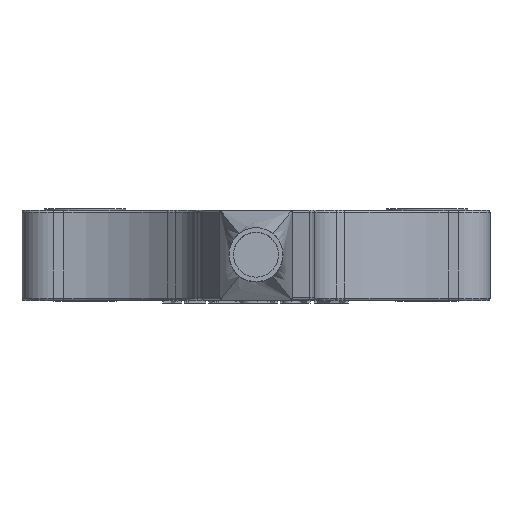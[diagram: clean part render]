
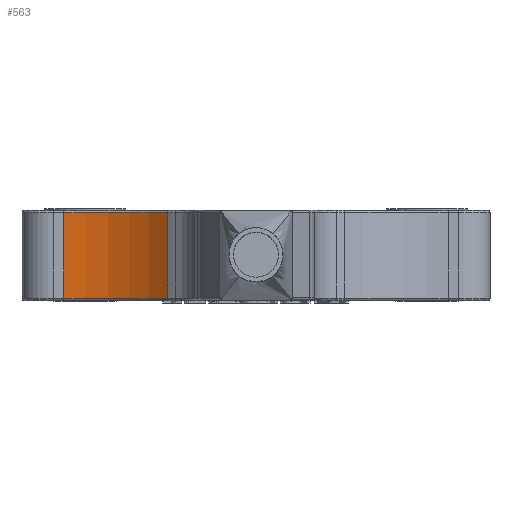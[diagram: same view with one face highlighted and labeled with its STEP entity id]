
A CAD part, top view. The second image highlights one B-rep face of the part: STEP entity #563.
In plain terms, the highlighted cylindrical face has radius 17.5 mm (diameter 35 mm), a partial arc.
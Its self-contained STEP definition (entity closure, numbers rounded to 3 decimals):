
#2 = DIRECTION ( 'NONE',  ( 0., 1., 0. ) ) ;
#251 = VERTEX_POINT ( 'NONE', #6872 ) ;
#563 = ADVANCED_FACE ( 'NONE', ( #3836 ), #11026, .F. ) ;
#1147 = VECTOR ( 'NONE', #6979, 1000. ) ;
#1235 = CARTESIAN_POINT ( 'NONE',  ( -26.059, 11.542, 10.322 ) ) ;
#2359 = LINE ( 'NONE', #11454, #1147 ) ;
#2696 = DIRECTION ( 'NONE',  ( 0., 0., -1. ) ) ;
#2743 = EDGE_CURVE ( 'NONE', #251, #9292, #3497, .T. ) ;
#3471 = AXIS2_PLACEMENT_3D ( 'NONE', #3596, #9339, #2696 ) ;
#3497 = LINE ( 'NONE', #6325, #4473 ) ;
#3596 = CARTESIAN_POINT ( 'NONE',  ( -26.059, 11.792, 10.322 ) ) ;
#3698 = CARTESIAN_POINT ( 'NONE',  ( -14.561, 11.542, -2.871 ) ) ;
#3815 = ORIENTED_EDGE ( 'NONE', *, *, #6968, .T. ) ;
#3836 = FACE_OUTER_BOUND ( 'NONE', #10234, .T. ) ;
#4473 = VECTOR ( 'NONE', #2, 1000. ) ;
#4584 = ORIENTED_EDGE ( 'NONE', *, *, #2743, .F. ) ;
#4717 = VERTEX_POINT ( 'NONE', #9914 ) ;
#4920 = AXIS2_PLACEMENT_3D ( 'NONE', #5977, #9403, #7635 ) ;
#5319 = CIRCLE ( 'NONE', #4920, 17.5 ) ;
#5755 = DIRECTION ( 'NONE',  ( 0., 1., 0. ) ) ;
#5977 = CARTESIAN_POINT ( 'NONE',  ( -26.059, 2.042, 10.322 ) ) ;
#6325 = CARTESIAN_POINT ( 'NONE',  ( -26.059, 11.792, -7.178 ) ) ;
#6826 = CARTESIAN_POINT ( 'NONE',  ( -26.059, 11.542, -7.178 ) ) ;
#6872 = CARTESIAN_POINT ( 'NONE',  ( -26.059, 2.042, -7.178 ) ) ;
#6968 = EDGE_CURVE ( 'NONE', #251, #4717, #5319, .T. ) ;
#6979 = DIRECTION ( 'NONE',  ( 0., -1., 0. ) ) ;
#7088 = AXIS2_PLACEMENT_3D ( 'NONE', #1235, #5755, #8617 ) ;
#7136 = ORIENTED_EDGE ( 'NONE', *, *, #10683, .T. ) ;
#7635 = DIRECTION ( 'NONE',  ( 0., 0., 1. ) ) ;
#8617 = DIRECTION ( 'NONE',  ( 0., 0., 1. ) ) ;
#9216 = CIRCLE ( 'NONE', #7088, 17.5 ) ;
#9292 = VERTEX_POINT ( 'NONE', #6826 ) ;
#9339 = DIRECTION ( 'NONE',  ( 0., -1., 0. ) ) ;
#9403 = DIRECTION ( 'NONE',  ( 0., -1., 0. ) ) ;
#9914 = CARTESIAN_POINT ( 'NONE',  ( -14.561, 2.042, -2.871 ) ) ;
#10234 = EDGE_LOOP ( 'NONE', ( #4584, #3815, #10349, #7136 ) ) ;
#10280 = EDGE_CURVE ( 'NONE', #11177, #4717, #2359, .T. ) ;
#10349 = ORIENTED_EDGE ( 'NONE', *, *, #10280, .F. ) ;
#10683 = EDGE_CURVE ( 'NONE', #11177, #9292, #9216, .T. ) ;
#11026 = CYLINDRICAL_SURFACE ( 'NONE', #3471, 17.5 ) ;
#11177 = VERTEX_POINT ( 'NONE', #3698 ) ;
#11454 = CARTESIAN_POINT ( 'NONE',  ( -14.561, 11.792, -2.871 ) ) ;
